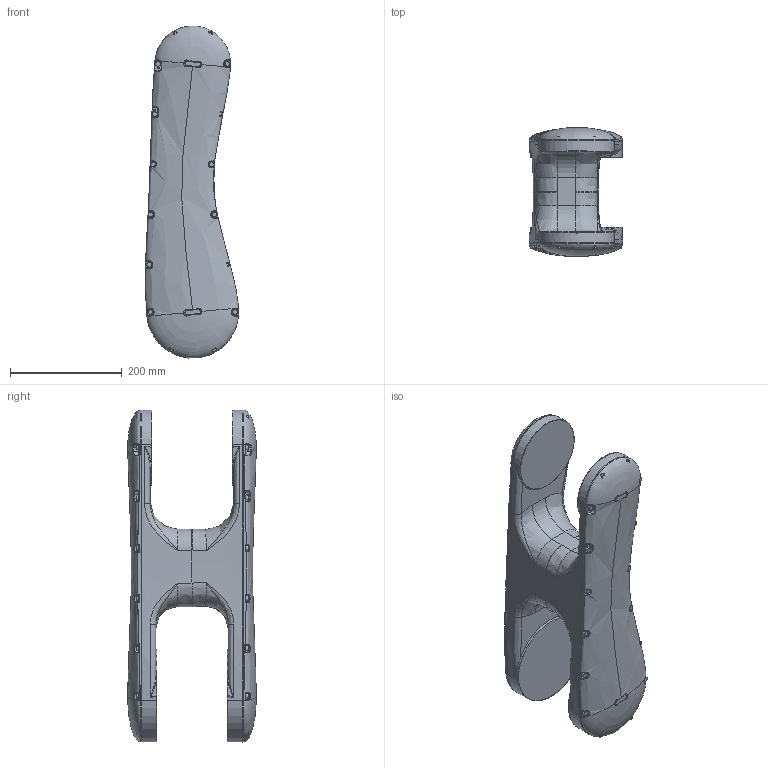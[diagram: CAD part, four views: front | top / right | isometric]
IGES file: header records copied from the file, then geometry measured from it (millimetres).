
Start section:  PTC IGES file: l_view_yr-n1-06vx7-c00.igs
Global section: file name: l_view_yr-n1-06vx7-c00.igs; native system: Creo Parametric by PTC Inc.; preprocessor: 2021072; author: mttm21; organization: Unknown; date: 20250919.181727; units: millimetre
Bounding box: 167.06 x 230.79 x 595.06 mm (x, y, z)
Volume: 8343832.7 mm3; surface area: 598684.2 mm2
Topology: 1 solids, 1 shells, 990 faces, 2323 edges, 1443 vertices
Faces by surface type: bspline 494, revolution 472, extrusion 24
